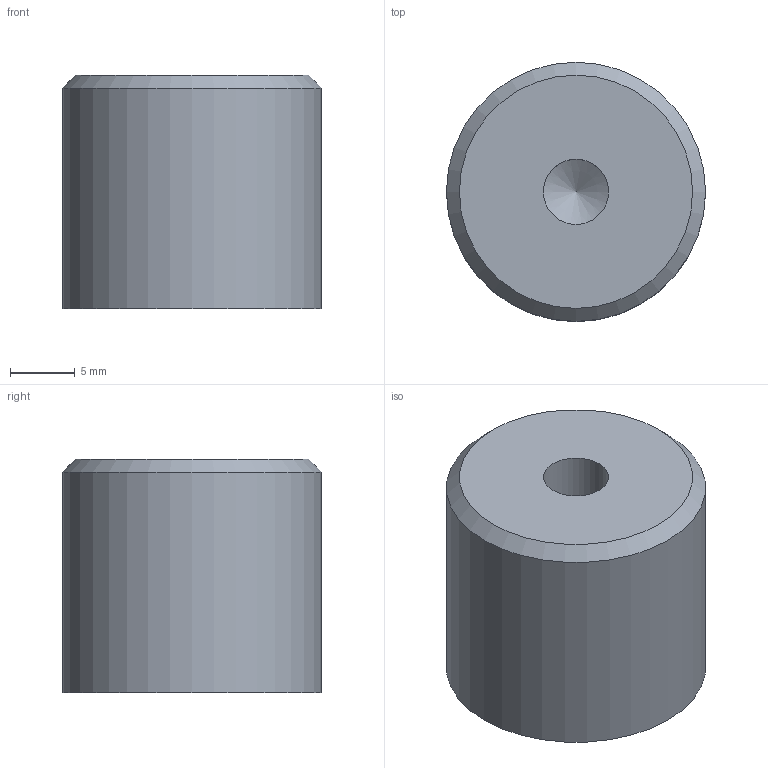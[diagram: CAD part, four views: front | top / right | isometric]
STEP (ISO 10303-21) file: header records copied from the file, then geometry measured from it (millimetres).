
FILE_DESCRIPTION(/* description */ (''),/* implementation_level */ '2;1');
FILE_NAME(/* name */ 'C:/Users/hiroshi_y/Documents/Fusion 360/PMH-1-20x18.step',/* time_stamp */ '2022-11-28T16:48:52+09:00',/* author */ (''),/* organization */ (''),/* preprocessor_version */ 'ST-DEVELOPER v19',/* originating_system */ 'Autodesk Translation Framework v11.7.0.108',/* authorisation */ '');
FILE_SCHEMA (('AUTOMOTIVE_DESIGN { 1 0 10303 214 3 1 1 }'));
Length unit declared in the file: millimetre
Products named in the file (1): PMH-1-20x18
Bounding box: 20 x 20 x 18 mm (x, y, z)
Volume: 5471.7 mm3; surface area: 1839.8 mm2
Topology: 1 solids, 1 shells, 10 faces, 16 edges, 10 vertices
Faces by surface type: cylinder 4, plane 4, cone 2
Full cylindrical faces by diameter (mm): 5.035 x1, 13 x1, 16 x1, 20 x1
Entity records: 276 total; most frequent: DIRECTION 46, CARTESIAN_POINT 36, ORIENTED_EDGE 30, AXIS2_PLACEMENT_3D 20, EDGE_CURVE 15, EDGE_LOOP 13, FACE_OUTER_BOUND 10, VERTEX_POINT 10
